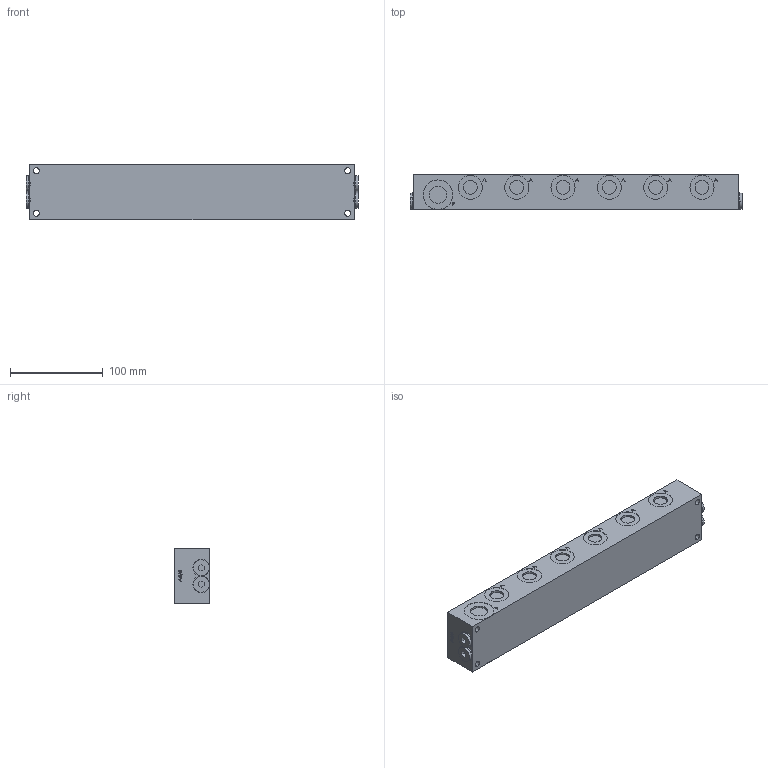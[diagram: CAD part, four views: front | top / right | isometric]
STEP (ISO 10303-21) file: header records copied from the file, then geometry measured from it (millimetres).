
FILE_DESCRIPTION (( 'STEP AP214' ), '1' );
FILE_NAME ('A6_6.STEP', '2017-05-01T14:03:22', ( '' ), ( '' ), 'SwSTEP 2.0', 'SolidWorks 2016', '' );
FILE_SCHEMA (( 'AUTOMOTIVE_DESIGN' ));
Length unit declared in the file: millimetre
Products named in the file (1): A6_6
Bounding box: 358.4 x 38 x 60 mm (x, y, z)
Volume: 784712.7 mm3; surface area: 83870.6 mm2
Topology: 5 solids, 5 shells, 613 faces, 1405 edges, 934 vertices
Faces by surface type: plane 327, cylinder 192, bspline 78, cone 16
Entity records: 27674 total; most frequent: CARTESIAN_POINT 7943, ORIENTED_EDGE 2810, DIRECTION 2633, EDGE_CURVE 1405, VERTEX_POINT 934, AXIS2_PLACEMENT_3D 896, LINE 841, VECTOR 841
